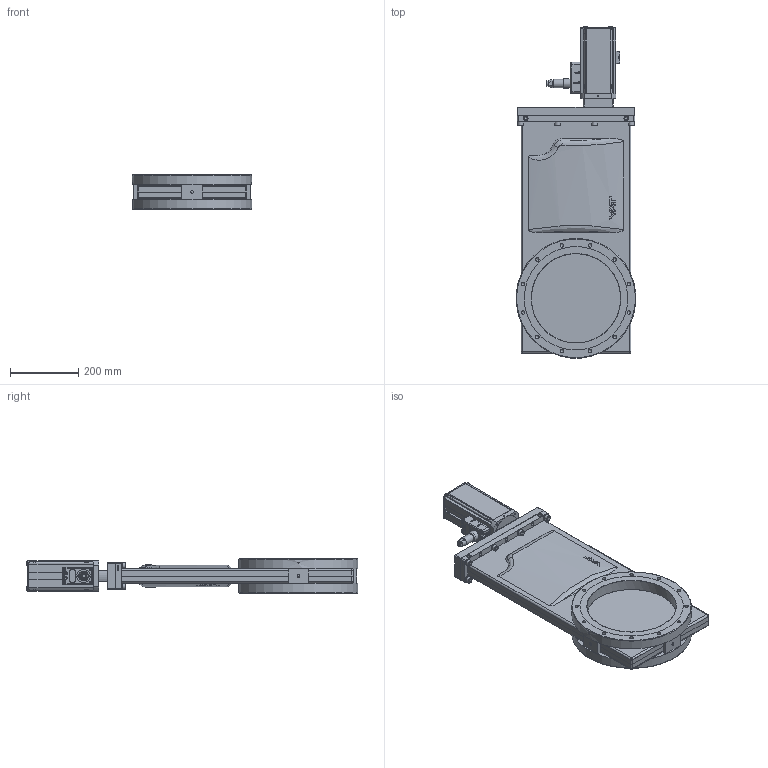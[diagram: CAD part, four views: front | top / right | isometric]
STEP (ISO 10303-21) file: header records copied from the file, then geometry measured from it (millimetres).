
FILE_DESCRIPTION(/* description */ (''),/* implementation_level */ '2;1');
FILE_NAME(/* name */ '1017188374_203.stp',/* time_stamp */ '2022-11-29T14:03:57+01:00',/* author */ (''),/* organization */ (''),/* preprocessor_version */ 'ST-DEVELOPER v18.1',/* originating_system */ 'SIEMENS PLM Software NX 1973',/* authorisation */ '');
FILE_SCHEMA (('AP203_CONFIGURATION_CONTROLLED_3D_DESIGN_OF_MECHANICAL_PARTS_AND_ASSEMBLIES_MIM_LF { 1 0 10303 403 2 1 2}'));
Length unit declared in the file: millimetre
Products named in the file (29): 209489_1.1; 436171_34809ID; 436171_34812ID; 65664-01.2_34929ID; 252694.2_34805ID; 252694.2_34806ID; 77900.1; n-6024-526; N-7100-014_2.1; 94828-01.1; N-7100-012_3.1; 70973-01.1; n-8504-002; n-6024-548.1; N-6024-571.1; 85949-01.1; 72770-01.4; 507356; 920048; N-5019-840.1; 65313-01.1; n-6134-410; 210260.1; 497134_MODEL; 94827-r1.1; 775146_MODEL; 94225-01.1; 94238-R1.4; 1126169
Assembly tree (54 placements, depth 4):
  1126169
    n-6134-410  x8
    65313-01.1
    N-5019-840.1  x8
    94238-R1.4
      72770-01.4  x4
      85949-01.1
      N-6024-571.1  x4
      94225-01.1
        65664-01.2_34929ID
    775146_MODEL
      n-6024-548.1  x4
      n-8504-002
      70973-01.1
    94827-r1.1
      N-7100-012_3.1
      94828-01.1
      N-7100-014_2.1
      n-6024-526  x2
    920048
    507356
    497134_MODEL
      210260.1
        436171_34812ID
        436171_34809ID
        209489_1.1
      77900.1  x3
      252694.2_34806ID
      252694.2_34805ID
Bounding box: 350 x 970.28 x 99.75 mm (x, y, z)
Volume: 7132751.4 mm3; surface area: 1687511.6 mm2
Topology: 65 solids, 65 shells, 1943 faces, 4908 edges, 3241 vertices
Faces by surface type: plane 1072, cylinder 542, cone 108, torus 97, extrusion 68, bspline 38, sphere 18
Full cylindrical faces by diameter (mm): 0.5 x1, 1.66 x7, 2 x1, 2.125 x1, 2.5 x8, 2.65 x1, 3 x3, 3.3 x6, 4 x4, 4.2 x4, 4.31 x4, 4.35 x2, 4.45 x4, 4.5 x2, 4.625 x2, 5 x10, 5.9 x1, 6 x13, 6.25 x2, 6.6 x4, 7.05 x1, 7.5 x4, 7.982 x4, 8 x4, 8.36 x8, 8.4 x8, 8.5 x19, 8.611 x2, 9.1 x1, 10 x17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
Entity records: 58912 total; most frequent: CARTESIAN_POINT 18699, ORIENTED_EDGE 7332, DIRECTION 7130, EDGE_CURVE 3666, VERTEX_POINT 2608, AXIS2_PLACEMENT_3D 2602, EDGE_LOOP 2131, VECTOR 1926
